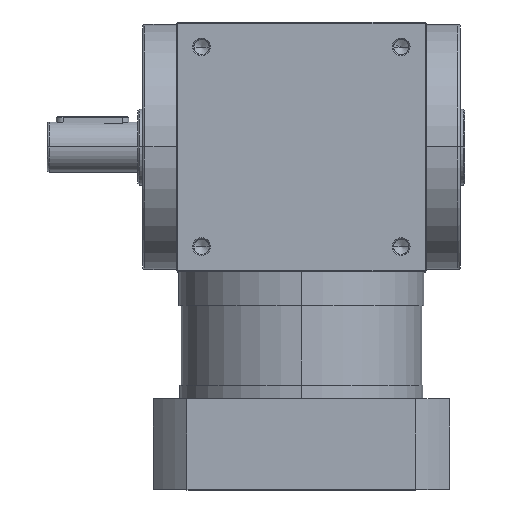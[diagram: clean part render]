
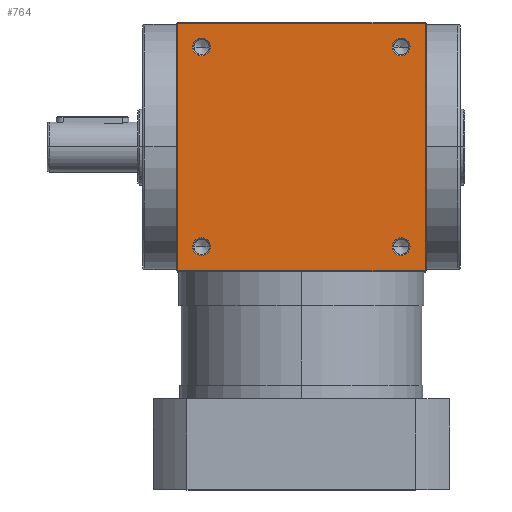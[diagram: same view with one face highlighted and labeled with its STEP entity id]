
A CAD part, top view. The second image highlights one B-rep face of the part: STEP entity #764.
In plain terms, the highlighted planar face has unit normal (0, 0, 1).
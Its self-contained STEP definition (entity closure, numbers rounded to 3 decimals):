
#151 = VERTEX_POINT ( 'NONE', #7397 ) ;
#155 = CIRCLE ( 'NONE', #5194, 3.9 ) ;
#199 = LINE ( 'NONE', #6745, #1779 ) ;
#211 = VECTOR ( 'NONE', #2101, 1000. ) ;
#246 = ORIENTED_EDGE ( 'NONE', *, *, #2809, .T. ) ;
#282 = ORIENTED_EDGE ( 'NONE', *, *, #6643, .T. ) ;
#306 = CARTESIAN_POINT ( 'NONE',  ( -40.1, -44., 55. ) ) ;
#358 = ORIENTED_EDGE ( 'NONE', *, *, #2887, .T. ) ;
#522 = VECTOR ( 'NONE', #7860, 1000. ) ;
#585 = VERTEX_POINT ( 'NONE', #2169 ) ;
#620 = CIRCLE ( 'NONE', #5503, 3.9 ) ;
#635 = EDGE_CURVE ( 'NONE', #6963, #4864, #1185, .T. ) ;
#764 = ADVANCED_FACE ( 'NONE', ( #7582, #3471, #6598, #6488, #8000 ), #918, .F. ) ;
#794 = EDGE_CURVE ( 'NONE', #2050, #151, #199, .T. ) ;
#878 = EDGE_CURVE ( 'NONE', #3291, #6864, #4422, .T. ) ;
#890 = DIRECTION ( 'NONE',  ( 0., 0., -1. ) ) ;
#918 = PLANE ( 'NONE',  #2160 ) ;
#1058 = ORIENTED_EDGE ( 'NONE', *, *, #878, .T. ) ;
#1104 = LINE ( 'NONE', #3456, #522 ) ;
#1185 = CIRCLE ( 'NONE', #6247, 3.9 ) ;
#1239 = EDGE_LOOP ( 'NONE', ( #2425, #358 ) ) ;
#1280 = DIRECTION ( 'NONE',  ( -1., 0., 0. ) ) ;
#1338 = ORIENTED_EDGE ( 'NONE', *, *, #635, .T. ) ;
#1351 = ORIENTED_EDGE ( 'NONE', *, *, #4136, .T. ) ;
#1401 = CIRCLE ( 'NONE', #5590, 3.9 ) ;
#1419 = DIRECTION ( 'NONE',  ( 0., 0., -1. ) ) ;
#1441 = DIRECTION ( 'NONE',  ( -1., 0., 0. ) ) ;
#1468 = CARTESIAN_POINT ( 'NONE',  ( -40.1, 44., 55. ) ) ;
#1583 = DIRECTION ( 'NONE',  ( -1., 0., 0. ) ) ;
#1673 = CARTESIAN_POINT ( 'NONE',  ( -47.9, -44., 55. ) ) ;
#1716 = CARTESIAN_POINT ( 'NONE',  ( 40.1, -44., 55. ) ) ;
#1741 = VERTEX_POINT ( 'NONE', #1673 ) ;
#1779 = VECTOR ( 'NONE', #6075, 1000. ) ;
#2050 = VERTEX_POINT ( 'NONE', #5164 ) ;
#2101 = DIRECTION ( 'NONE',  ( 0., 1., 0. ) ) ;
#2160 = AXIS2_PLACEMENT_3D ( 'NONE', #5254, #2759, #7792 ) ;
#2169 = CARTESIAN_POINT ( 'NONE',  ( 40.1, 44., 55. ) ) ;
#2201 = EDGE_LOOP ( 'NONE', ( #1338, #282 ) ) ;
#2214 = CARTESIAN_POINT ( 'NONE',  ( -44., 44., 55. ) ) ;
#2292 = CARTESIAN_POINT ( 'NONE',  ( 0., -54.5, 55. ) ) ;
#2361 = DIRECTION ( 'NONE',  ( -1., 0., 0. ) ) ;
#2384 = EDGE_CURVE ( 'NONE', #151, #3291, #1104, .T. ) ;
#2425 = ORIENTED_EDGE ( 'NONE', *, *, #7801, .T. ) ;
#2759 = DIRECTION ( 'NONE',  ( 0., 0., -1. ) ) ;
#2809 = EDGE_CURVE ( 'NONE', #6864, #2050, #3953, .T. ) ;
#2834 = ORIENTED_EDGE ( 'NONE', *, *, #4288, .T. ) ;
#2851 = CARTESIAN_POINT ( 'NONE',  ( -54.5, -54.5, 55. ) ) ;
#2887 = EDGE_CURVE ( 'NONE', #7060, #4672, #1401, .T. ) ;
#3290 = CARTESIAN_POINT ( 'NONE',  ( -44., -44., 55. ) ) ;
#3291 = VERTEX_POINT ( 'NONE', #2851 ) ;
#3456 = CARTESIAN_POINT ( 'NONE',  ( -54.5, 0., 55. ) ) ;
#3471 = FACE_BOUND ( 'NONE', #2201, .T. ) ;
#3491 = DIRECTION ( 'NONE',  ( -1., 0., 0. ) ) ;
#3523 = CARTESIAN_POINT ( 'NONE',  ( 47.9, -44., 55. ) ) ;
#3572 = CARTESIAN_POINT ( 'NONE',  ( 44., -44., 55. ) ) ;
#3703 = ORIENTED_EDGE ( 'NONE', *, *, #2384, .T. ) ;
#3880 = CARTESIAN_POINT ( 'NONE',  ( 47.9, 44., 55. ) ) ;
#3953 = LINE ( 'NONE', #7189, #211 ) ;
#3984 = CARTESIAN_POINT ( 'NONE',  ( -44., 44., 55. ) ) ;
#4107 = EDGE_LOOP ( 'NONE', ( #2834, #6759 ) ) ;
#4136 = EDGE_CURVE ( 'NONE', #4671, #1741, #5182, .T. ) ;
#4168 = DIRECTION ( 'NONE',  ( -1., 0., 0. ) ) ;
#4186 = CARTESIAN_POINT ( 'NONE',  ( -47.9, 44., 55. ) ) ;
#4213 = AXIS2_PLACEMENT_3D ( 'NONE', #7307, #6133, #4168 ) ;
#4233 = VECTOR ( 'NONE', #7356, 1000. ) ;
#4288 = EDGE_CURVE ( 'NONE', #5750, #585, #7885, .T. ) ;
#4422 = LINE ( 'NONE', #2292, #4233 ) ;
#4592 = CIRCLE ( 'NONE', #4213, 3.9 ) ;
#4671 = VERTEX_POINT ( 'NONE', #306 ) ;
#4672 = VERTEX_POINT ( 'NONE', #1468 ) ;
#4785 = CARTESIAN_POINT ( 'NONE',  ( 44., 44., 55. ) ) ;
#4807 = DIRECTION ( 'NONE',  ( 0., 0., -1. ) ) ;
#4864 = VERTEX_POINT ( 'NONE', #1716 ) ;
#4977 = EDGE_CURVE ( 'NONE', #585, #5750, #155, .T. ) ;
#5021 = AXIS2_PLACEMENT_3D ( 'NONE', #3290, #1419, #5799 ) ;
#5028 = CARTESIAN_POINT ( 'NONE',  ( 44., 44., 55. ) ) ;
#5164 = CARTESIAN_POINT ( 'NONE',  ( 54.5, 54.5, 55. ) ) ;
#5182 = CIRCLE ( 'NONE', #5021, 3.9 ) ;
#5194 = AXIS2_PLACEMENT_3D ( 'NONE', #5028, #6866, #1280 ) ;
#5218 = EDGE_CURVE ( 'NONE', #1741, #4671, #620, .T. ) ;
#5254 = CARTESIAN_POINT ( 'NONE',  ( 0., 0., 55. ) ) ;
#5268 = EDGE_LOOP ( 'NONE', ( #1351, #5512 ) ) ;
#5283 = DIRECTION ( 'NONE',  ( -1., 0., 0. ) ) ;
#5503 = AXIS2_PLACEMENT_3D ( 'NONE', #7815, #890, #5283 ) ;
#5512 = ORIENTED_EDGE ( 'NONE', *, *, #5218, .T. ) ;
#5590 = AXIS2_PLACEMENT_3D ( 'NONE', #2214, #4807, #1583 ) ;
#5658 = AXIS2_PLACEMENT_3D ( 'NONE', #3984, #7714, #1441 ) ;
#5750 = VERTEX_POINT ( 'NONE', #3880 ) ;
#5799 = DIRECTION ( 'NONE',  ( -1., 0., 0. ) ) ;
#5952 = EDGE_LOOP ( 'NONE', ( #3703, #1058, #246, #6736 ) ) ;
#6018 = CIRCLE ( 'NONE', #5658, 3.9 ) ;
#6075 = DIRECTION ( 'NONE',  ( -1., 0., 0. ) ) ;
#6104 = DIRECTION ( 'NONE',  ( 0., 0., -1. ) ) ;
#6133 = DIRECTION ( 'NONE',  ( 0., 0., -1. ) ) ;
#6247 = AXIS2_PLACEMENT_3D ( 'NONE', #3572, #6104, #2361 ) ;
#6488 = FACE_BOUND ( 'NONE', #4107, .T. ) ;
#6598 = FACE_BOUND ( 'NONE', #5268, .T. ) ;
#6643 = EDGE_CURVE ( 'NONE', #4864, #6963, #4592, .T. ) ;
#6710 = AXIS2_PLACEMENT_3D ( 'NONE', #4785, #7300, #3491 ) ;
#6736 = ORIENTED_EDGE ( 'NONE', *, *, #794, .T. ) ;
#6745 = CARTESIAN_POINT ( 'NONE',  ( 0., 54.5, 55. ) ) ;
#6759 = ORIENTED_EDGE ( 'NONE', *, *, #4977, .T. ) ;
#6864 = VERTEX_POINT ( 'NONE', #7821 ) ;
#6866 = DIRECTION ( 'NONE',  ( 0., 0., -1. ) ) ;
#6963 = VERTEX_POINT ( 'NONE', #3523 ) ;
#7060 = VERTEX_POINT ( 'NONE', #4186 ) ;
#7189 = CARTESIAN_POINT ( 'NONE',  ( 54.5, 0., 55. ) ) ;
#7300 = DIRECTION ( 'NONE',  ( 0., 0., -1. ) ) ;
#7307 = CARTESIAN_POINT ( 'NONE',  ( 44., -44., 55. ) ) ;
#7356 = DIRECTION ( 'NONE',  ( 1., 0., 0. ) ) ;
#7397 = CARTESIAN_POINT ( 'NONE',  ( -54.5, 54.5, 55. ) ) ;
#7582 = FACE_OUTER_BOUND ( 'NONE', #5952, .T. ) ;
#7714 = DIRECTION ( 'NONE',  ( 0., 0., -1. ) ) ;
#7792 = DIRECTION ( 'NONE',  ( -1., 0., 0. ) ) ;
#7801 = EDGE_CURVE ( 'NONE', #4672, #7060, #6018, .T. ) ;
#7815 = CARTESIAN_POINT ( 'NONE',  ( -44., -44., 55. ) ) ;
#7821 = CARTESIAN_POINT ( 'NONE',  ( 54.5, -54.5, 55. ) ) ;
#7860 = DIRECTION ( 'NONE',  ( 0., -1., 0. ) ) ;
#7885 = CIRCLE ( 'NONE', #6710, 3.9 ) ;
#8000 = FACE_BOUND ( 'NONE', #1239, .T. ) ;
